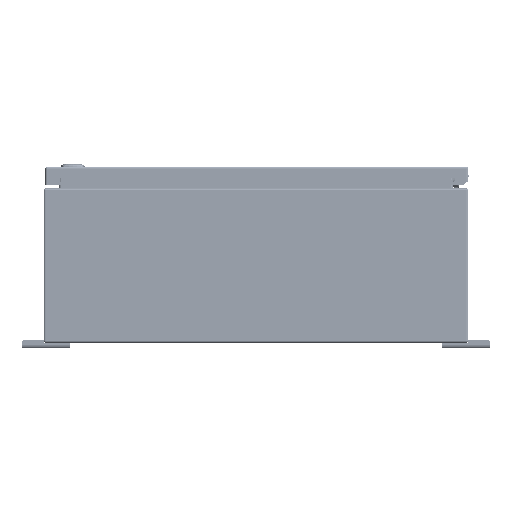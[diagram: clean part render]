
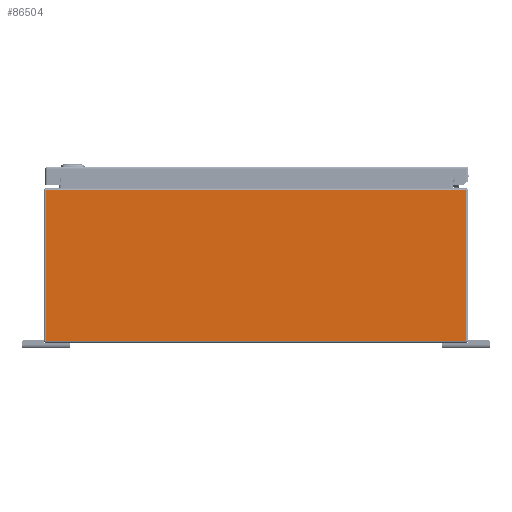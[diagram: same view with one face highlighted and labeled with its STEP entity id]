
A CAD part, left-side view. The second image highlights one B-rep face of the part: STEP entity #86504.
In plain terms, the highlighted planar face has unit normal (-1, 0, 0).
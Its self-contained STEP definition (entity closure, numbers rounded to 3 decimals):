
#5408=PLANE('',#92714);
#7525=LINE('',#121169,#14094);
#7526=LINE('',#121173,#14095);
#7527=LINE('',#121175,#14096);
#7528=LINE('',#121177,#14097);
#7529=LINE('',#121179,#14098);
#7530=LINE('',#121180,#14099);
#14094=VECTOR('',#100091,0.394);
#14095=VECTOR('',#100096,0.394);
#14096=VECTOR('',#100097,0.394);
#14097=VECTOR('',#100098,0.394);
#14098=VECTOR('',#100099,0.394);
#14099=VECTOR('',#100100,0.394);
#21995=FACE_OUTER_BOUND('',#27172,.T.);
#27172=EDGE_LOOP('',(#58246,#58247,#58248,#58249,#58250,#58251));
#35853=VERTEX_POINT('',#121151);
#35860=VERTEX_POINT('',#121168);
#35861=VERTEX_POINT('',#121172);
#35862=VERTEX_POINT('',#121174);
#35863=VERTEX_POINT('',#121176);
#35864=VERTEX_POINT('',#121178);
#44592=EDGE_CURVE('',#35853,#35860,#7525,.T.);
#44594=EDGE_CURVE('',#35861,#35853,#7526,.T.);
#44595=EDGE_CURVE('',#35861,#35862,#7527,.T.);
#44596=EDGE_CURVE('',#35863,#35862,#7528,.T.);
#44597=EDGE_CURVE('',#35864,#35863,#7529,.T.);
#44598=EDGE_CURVE('',#35864,#35860,#7530,.T.);
#58246=ORIENTED_EDGE('',*,*,#44594,.F.);
#58247=ORIENTED_EDGE('',*,*,#44595,.T.);
#58248=ORIENTED_EDGE('',*,*,#44596,.F.);
#58249=ORIENTED_EDGE('',*,*,#44597,.F.);
#58250=ORIENTED_EDGE('',*,*,#44598,.T.);
#58251=ORIENTED_EDGE('',*,*,#44592,.F.);
#86504=ADVANCED_FACE('',(#21995),#5408,.F.);
#92714=AXIS2_PLACEMENT_3D('',#121171,#100094,#100095);
#100091=DIRECTION('',(0.,0.,-1.));
#100094=DIRECTION('center_axis',(1.,0.,0.));
#100095=DIRECTION('ref_axis',(0.,0.,-1.));
#100096=DIRECTION('',(0.,-1.,0.));
#100097=DIRECTION('',(0.,1.,0.));
#100098=DIRECTION('',(0.,-1.,0.));
#100099=DIRECTION('',(0.,0.,1.));
#100100=DIRECTION('',(0.,-1.,0.));
#121151=CARTESIAN_POINT('',(-30.,-10.901,7.901));
#121168=CARTESIAN_POINT('',(-30.,-10.901,0.099));
#121169=CARTESIAN_POINT('',(-30.,-10.901,4.));
#121171=CARTESIAN_POINT('Origin',(-30.,0.,4.));
#121172=CARTESIAN_POINT('',(-30.,-10.126,7.901));
#121173=CARTESIAN_POINT('',(-30.,-5.475,7.901));
#121174=CARTESIAN_POINT('',(-30.,10.126,7.901));
#121175=CARTESIAN_POINT('',(-30.,5.455,7.901));
#121176=CARTESIAN_POINT('',(-30.,10.901,7.901));
#121177=CARTESIAN_POINT('',(-30.,-5.475,7.901));
#121178=CARTESIAN_POINT('',(-30.,10.901,0.099));
#121179=CARTESIAN_POINT('',(-30.,10.901,4.));
#121180=CARTESIAN_POINT('',(-30.,5.5,0.099));
